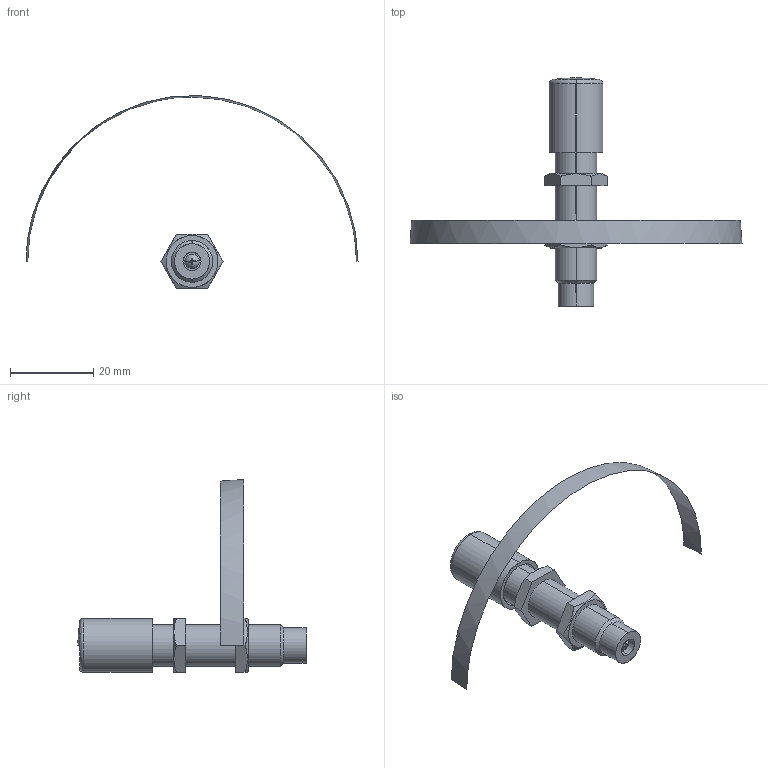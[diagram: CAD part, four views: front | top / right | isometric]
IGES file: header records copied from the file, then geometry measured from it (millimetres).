
Start section: SolidWorks IGES file using analytic representation for surfaces
Global section: file name: Y:\CAD\HP梡CAD僨乕僞\210305_HP峏怴梡\3D\FK-1008-C-060.IGS; native system: SolidWorks 2021; preprocessor: SolidWorks 2021; author: flgijutsu; date: 210310.150102; units: millimetre
Bounding box: 80 x 55 x 46.45 mm (x, y, z)
Surface area: 3704.7 mm2 (no closed solid volume)
Topology: 0 solids, 0 shells, 54 faces, 794 edges, 793 vertices
Faces by surface type: bspline 34, revolution 20
